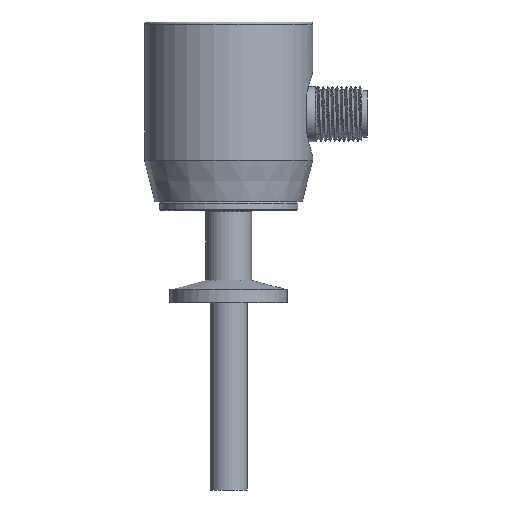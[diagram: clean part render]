
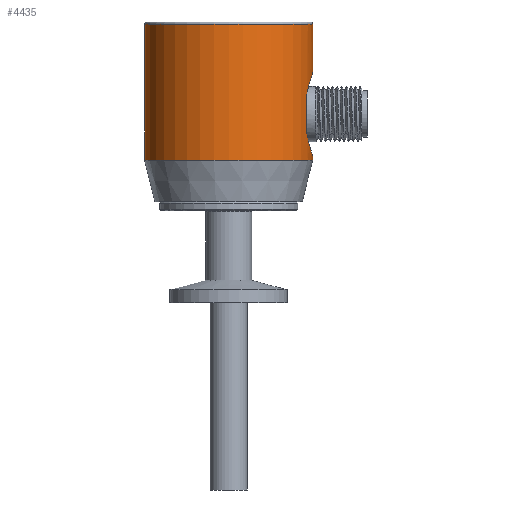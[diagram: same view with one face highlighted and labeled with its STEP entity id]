
A CAD part, left-side view. The second image highlights one B-rep face of the part: STEP entity #4435.
In plain terms, the highlighted cylindrical face has radius 18.25 mm (diameter 36.5 mm), a full revolution.
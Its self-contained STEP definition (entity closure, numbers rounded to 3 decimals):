
#41=LINE('',#16319,#1553);
#42=LINE('',#16323,#1554);
#1553=VECTOR('',#13216,1.);
#1554=VECTOR('',#13219,1.);
#3734=B_SPLINE_CURVE_WITH_KNOTS('',3,(#16285,#16286,#16287,#16288,#16289,
#16290,#16291,#16292,#16293,#16294),.UNSPECIFIED.,.F.,.F.,(4,2,2,2,4),(0.,
0.25,0.5,0.75,1.),.UNSPECIFIED.);
#3736=B_SPLINE_CURVE_WITH_KNOTS('',3,(#16325,#16326,#16327,#16328,#16329,
#16330,#16331,#16332,#16333,#16334),.UNSPECIFIED.,.F.,.F.,(4,2,2,2,4),(0.,
0.25,0.5,0.75,1.),.UNSPECIFIED.);
#3781=CYLINDRICAL_SURFACE('',#12378,18.25);
#4435=ADVANCED_FACE('',(#5134,#5135,#5136),#3781,.T.);
#5134=FACE_BOUND('',#5349,.T.);
#5135=FACE_BOUND('',#5350,.T.);
#5136=FACE_BOUND('',#5351,.T.);
#5349=EDGE_LOOP('',(#6150,#6151,#6152,#6153));
#5350=EDGE_LOOP('',(#6154));
#5351=EDGE_LOOP('',(#6155));
#6150=ORIENTED_EDGE('',*,*,#10568,.F.);
#6151=ORIENTED_EDGE('',*,*,#10565,.F.);
#6152=ORIENTED_EDGE('',*,*,#10562,.F.);
#6153=ORIENTED_EDGE('',*,*,#10567,.F.);
#6154=ORIENTED_EDGE('',*,*,#10569,.T.);
#6155=ORIENTED_EDGE('',*,*,#10570,.F.);
#9427=VERTEX_POINT('',#16283);
#9428=VERTEX_POINT('',#16284);
#9431=VERTEX_POINT('',#16320);
#9432=VERTEX_POINT('',#16322);
#9433=VERTEX_POINT('',#16336);
#9434=VERTEX_POINT('',#16338);
#10562=EDGE_CURVE('',#9428,#9427,#3734,.T.);
#10565=EDGE_CURVE('',#9427,#9431,#41,.T.);
#10567=EDGE_CURVE('',#9432,#9428,#42,.T.);
#10568=EDGE_CURVE('',#9431,#9432,#3736,.T.);
#10569=EDGE_CURVE('',#9433,#9433,#12223,.T.);
#10570=EDGE_CURVE('',#9434,#9434,#12224,.T.);
#12223=CIRCLE('',#12376,18.25);
#12224=CIRCLE('',#12377,18.25);
#12376=AXIS2_PLACEMENT_3D('',#16335,#13222,#13223);
#12377=AXIS2_PLACEMENT_3D('',#16337,#13224,#13225);
#12378=AXIS2_PLACEMENT_3D('',#16339,#13226,#13227);
#13216=DIRECTION('',(0.,0.,1.));
#13219=DIRECTION('',(0.,0.,-1.));
#13222=DIRECTION('',(0.,0.,1.));
#13223=DIRECTION('',(0.,1.,0.));
#13224=DIRECTION('',(0.,0.,1.));
#13225=DIRECTION('',(-1.,0.,0.));
#13226=DIRECTION('',(0.,0.,-1.));
#13227=DIRECTION('',(0.,-1.,0.));
#16283=CARTESIAN_POINT('',(-266.235,-16.95,79.729));
#16284=CARTESIAN_POINT('',(-279.765,-16.95,79.729));
#16285=CARTESIAN_POINT('',(-279.765,-16.95,79.729));
#16286=CARTESIAN_POINT('',(-279.151,-17.195,78.404));
#16287=CARTESIAN_POINT('',(-278.25,-17.519,77.243));
#16288=CARTESIAN_POINT('',(-275.935,-18.052,75.533));
#16289=CARTESIAN_POINT('',(-274.504,-18.249,75.004));
#16290=CARTESIAN_POINT('',(-271.529,-18.251,74.996));
#16291=CARTESIAN_POINT('',(-270.1,-18.058,75.512));
#16292=CARTESIAN_POINT('',(-267.75,-17.52,77.238));
#16293=CARTESIAN_POINT('',(-266.85,-17.195,78.402));
#16294=CARTESIAN_POINT('',(-266.235,-16.95,79.729));
#16319=CARTESIAN_POINT('',(-266.235,-16.95,79.729));
#16320=CARTESIAN_POINT('',(-266.235,-16.95,88.271));
#16322=CARTESIAN_POINT('',(-279.765,-16.95,88.271));
#16323=CARTESIAN_POINT('',(-279.765,-16.95,88.271));
#16325=CARTESIAN_POINT('',(-266.235,-16.95,88.271));
#16326=CARTESIAN_POINT('',(-266.849,-17.195,89.596));
#16327=CARTESIAN_POINT('',(-267.75,-17.519,90.757));
#16328=CARTESIAN_POINT('',(-270.065,-18.052,92.467));
#16329=CARTESIAN_POINT('',(-271.496,-18.249,92.996));
#16330=CARTESIAN_POINT('',(-274.471,-18.251,93.004));
#16331=CARTESIAN_POINT('',(-275.9,-18.058,92.488));
#16332=CARTESIAN_POINT('',(-278.25,-17.52,90.762));
#16333=CARTESIAN_POINT('',(-279.15,-17.195,89.598));
#16334=CARTESIAN_POINT('',(-279.765,-16.95,88.271));
#16335=CARTESIAN_POINT('',(-273.,0.,74.));
#16336=CARTESIAN_POINT('',(-273.,18.25,74.));
#16337=CARTESIAN_POINT('',(-273.,0.,103.5));
#16338=CARTESIAN_POINT('',(-291.25,0.,103.5));
#16339=CARTESIAN_POINT('',(-273.,0.,103.85));
